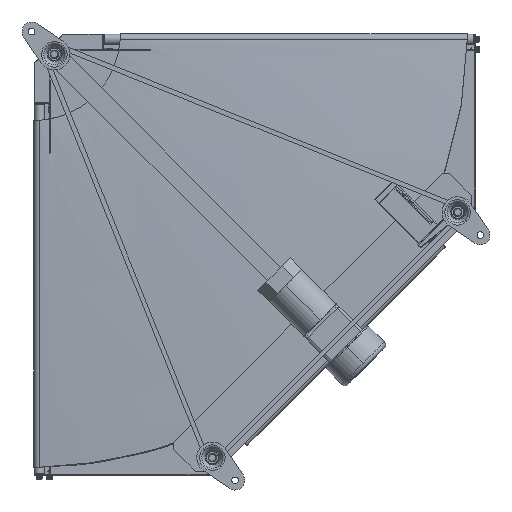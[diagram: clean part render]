
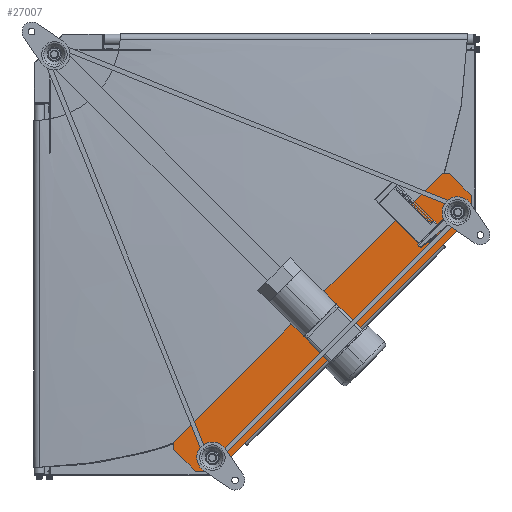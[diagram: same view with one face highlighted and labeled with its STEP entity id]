
A CAD part, front view. The second image highlights one B-rep face of the part: STEP entity #27007.
In plain terms, the highlighted planar face has unit normal (0, -1, 0).
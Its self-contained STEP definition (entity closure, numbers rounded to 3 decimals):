
#1734 = LINE ( 'NONE', #43446, #43229 ) ;
#2309 = VERTEX_POINT ( 'NONE', #19591 ) ;
#2904 = CARTESIAN_POINT ( 'NONE',  ( 273.297, -167.5, -800.091 ) ) ;
#3095 = AXIS2_PLACEMENT_3D ( 'NONE', #11172, #43613, #31625 ) ;
#5038 = LINE ( 'NONE', #2904, #5634 ) ;
#5634 = VECTOR ( 'NONE', #30443, 1000. ) ;
#5879 = VERTEX_POINT ( 'NONE', #6525 ) ;
#6525 = CARTESIAN_POINT ( 'NONE',  ( 358.15, -167.5, -856.66 ) ) ;
#8396 = VERTEX_POINT ( 'NONE', #14774 ) ;
#8598 = DIRECTION ( 'NONE',  ( 0., 0., -1. ) ) ;
#8720 = VECTOR ( 'NONE', #8598, 1000. ) ;
#9050 = EDGE_CURVE ( 'NONE', #35051, #33314, #5038, .T. ) ;
#10994 = CARTESIAN_POINT ( 'NONE',  ( 315.723, -167.5, -856.66 ) ) ;
#11172 = CARTESIAN_POINT ( 'NONE',  ( 0., -167.5, 0. ) ) ;
#12325 = ORIENTED_EDGE ( 'NONE', *, *, #9050, .F. ) ;
#13201 = CARTESIAN_POINT ( 'NONE',  ( 273.297, -167.5, -814.233 ) ) ;
#13939 = EDGE_CURVE ( 'NONE', #2309, #48677, #37537, .T. ) ;
#14774 = CARTESIAN_POINT ( 'NONE',  ( 800.091, -167.5, -273.297 ) ) ;
#15928 = EDGE_CURVE ( 'NONE', #33314, #8396, #21135, .T. ) ;
#16304 = VERTEX_POINT ( 'NONE', #37191 ) ;
#16804 = VECTOR ( 'NONE', #41204, 1000. ) ;
#16852 = EDGE_CURVE ( 'NONE', #5879, #16304, #34194, .T. ) ;
#17354 = CARTESIAN_POINT ( 'NONE',  ( 856.66, -167.5, -358.15 ) ) ;
#18150 = CARTESIAN_POINT ( 'NONE',  ( 273.297, -167.5, -800.091 ) ) ;
#18164 = VECTOR ( 'NONE', #49257, 1000. ) ;
#19591 = CARTESIAN_POINT ( 'NONE',  ( 856.66, -167.5, -315.723 ) ) ;
#20857 = CARTESIAN_POINT ( 'NONE',  ( 273.297, -167.5, -814.233 ) ) ;
#21135 = LINE ( 'NONE', #18150, #47541 ) ;
#21552 = VECTOR ( 'NONE', #42715, 1000. ) ;
#23391 = CARTESIAN_POINT ( 'NONE',  ( 800.091, -167.5, -273.297 ) ) ;
#23548 = VECTOR ( 'NONE', #43250, 1000. ) ;
#24383 = ORIENTED_EDGE ( 'NONE', *, *, #31891, .F. ) ;
#25248 = FACE_OUTER_BOUND ( 'NONE', #26472, .T. ) ;
#26241 = PLANE ( 'NONE',  #3095 ) ;
#26472 = EDGE_LOOP ( 'NONE', ( #12325, #35414, #46013, #24383, #46795, #30489, #49965, #50910 ) ) ;
#26951 = LINE ( 'NONE', #33034, #18164 ) ;
#27007 = ADVANCED_FACE ( 'NONE', ( #25248 ), #26241, .T. ) ;
#30382 = DIRECTION ( 'NONE',  ( 0.707, 0., 0.707 ) ) ;
#30443 = DIRECTION ( 'NONE',  ( 0., 0., 1. ) ) ;
#30489 = ORIENTED_EDGE ( 'NONE', *, *, #48277, .F. ) ;
#31066 = CARTESIAN_POINT ( 'NONE',  ( 856.66, -167.5, -358.15 ) ) ;
#31625 = DIRECTION ( 'NONE',  ( 0., 0., -1. ) ) ;
#31891 = EDGE_CURVE ( 'NONE', #48677, #5879, #1734, .T. ) ;
#33034 = CARTESIAN_POINT ( 'NONE',  ( 814.233, -167.5, -273.297 ) ) ;
#33314 = VERTEX_POINT ( 'NONE', #34804 ) ;
#34194 = LINE ( 'NONE', #10994, #23548 ) ;
#34804 = CARTESIAN_POINT ( 'NONE',  ( 273.297, -167.5, -800.091 ) ) ;
#35051 = VERTEX_POINT ( 'NONE', #13201 ) ;
#35414 = ORIENTED_EDGE ( 'NONE', *, *, #41944, .F. ) ;
#37191 = CARTESIAN_POINT ( 'NONE',  ( 315.723, -167.5, -856.66 ) ) ;
#37285 = EDGE_CURVE ( 'NONE', #8396, #43655, #37825, .T. ) ;
#37537 = LINE ( 'NONE', #17354, #8720 ) ;
#37825 = LINE ( 'NONE', #23391, #21552 ) ;
#38032 = LINE ( 'NONE', #20857, #16804 ) ;
#41204 = DIRECTION ( 'NONE',  ( -0.707, 0., 0.707 ) ) ;
#41944 = EDGE_CURVE ( 'NONE', #16304, #35051, #38032, .T. ) ;
#42715 = DIRECTION ( 'NONE',  ( 1., 0., 0. ) ) ;
#43229 = VECTOR ( 'NONE', #46984, 1000. ) ;
#43250 = DIRECTION ( 'NONE',  ( -1., 0., 0. ) ) ;
#43446 = CARTESIAN_POINT ( 'NONE',  ( 358.15, -167.5, -856.66 ) ) ;
#43613 = DIRECTION ( 'NONE',  ( 0., -1., 0. ) ) ;
#43655 = VERTEX_POINT ( 'NONE', #48274 ) ;
#46013 = ORIENTED_EDGE ( 'NONE', *, *, #16852, .F. ) ;
#46795 = ORIENTED_EDGE ( 'NONE', *, *, #13939, .F. ) ;
#46984 = DIRECTION ( 'NONE',  ( -0.707, 0., -0.707 ) ) ;
#47541 = VECTOR ( 'NONE', #30382, 1000. ) ;
#48274 = CARTESIAN_POINT ( 'NONE',  ( 814.233, -167.5, -273.297 ) ) ;
#48277 = EDGE_CURVE ( 'NONE', #43655, #2309, #26951, .T. ) ;
#48677 = VERTEX_POINT ( 'NONE', #31066 ) ;
#49257 = DIRECTION ( 'NONE',  ( 0.707, 0., -0.707 ) ) ;
#49965 = ORIENTED_EDGE ( 'NONE', *, *, #37285, .F. ) ;
#50910 = ORIENTED_EDGE ( 'NONE', *, *, #15928, .F. ) ;
